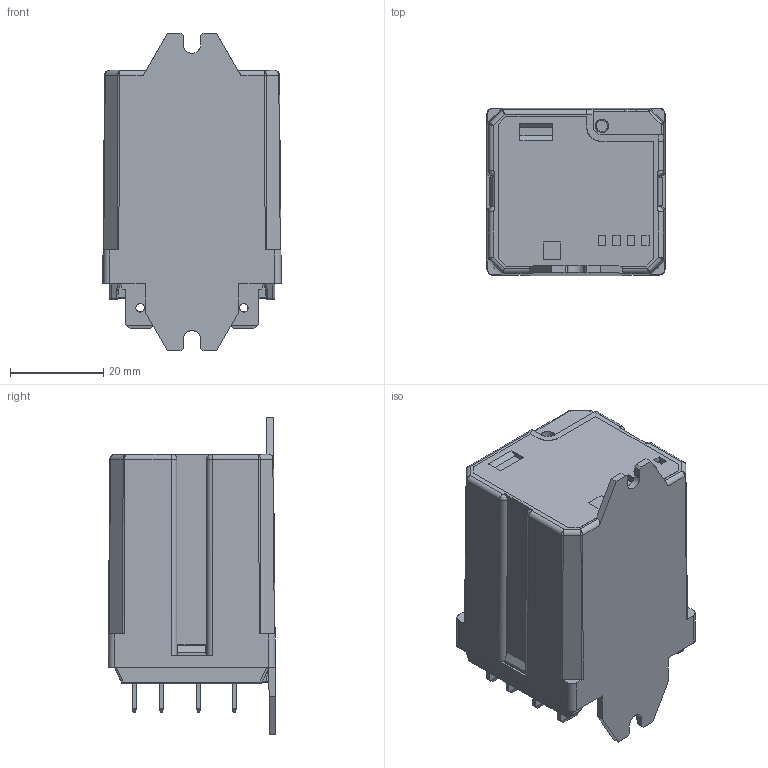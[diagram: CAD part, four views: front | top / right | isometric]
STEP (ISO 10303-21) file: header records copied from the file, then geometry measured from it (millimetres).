
FILE_DESCRIPTION(('STEP AP214'),'2;1');
FILE_NAME('6283.stp','2011-09-28T16:28:52',(''),(''),'2007.1.106','THINKDESIGN','');
FILE_SCHEMA(('AUTOMOTIVE_DESIGN'));
Length unit declared in the file: millimetre
Products named in the file (1): None
Bounding box: 38.2 x 35.93 x 68.01 mm (x, y, z)
Surface area: 14176.9 mm2 (no closed solid volume)
Topology: 0 solids, 0 shells, 538 faces, 2965 edges, 2922 vertices
Faces by surface type: plane 343, cylinder 110, bspline 85
Full cylindrical faces by diameter (mm): 1.8 x11, 5 x1
Entity records: 32908 total; most frequent: CARTESIAN_POINT 11893, DIRECTION 3449, COMPOSITE_CURVE_SEGMENT 2941, TRIMMED_CURVE 2393, VECTOR 2291, LINE 2291, AXIS2_PLACEMENT_3D 579, OUTER_BOUNDARY_CURVE 538
